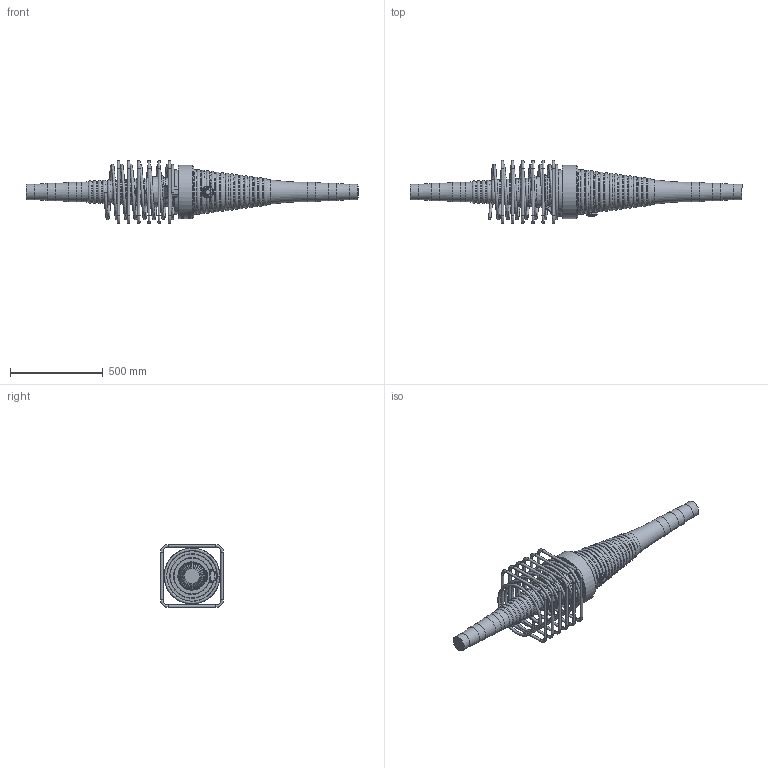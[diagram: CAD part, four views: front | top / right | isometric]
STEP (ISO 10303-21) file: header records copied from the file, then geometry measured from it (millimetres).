
FILE_DESCRIPTION(/* description */ (''),/* implementation_level */ '2;1');
FILE_NAME(/* name */ 'BBR VT CONA CMI BT 1306_Coupler K Assembly_CS-34,28.stp',/* time_stamp */ '2025-05-09T09:47:55+02:00',/* author */ ('tk'),/* organization */ (''),/* preprocessor_version */ 'ST-DEVELOPER v20',/* originating_system */ 'Autodesk Inventor 2024',/* authorisation */ '');
FILE_SCHEMA (('AUTOMOTIVE_DESIGN { 1 0 10303 214 3 1 1 }'));
Products named in the file (1): BBR VT CONA CMI BT 1306_Couler K Assembly_CS-34,28
Bounding box: 1790.13 x 340 x 340 mm (x, y, z)
Volume: 34588435.1 mm3; surface area: 1597587.3 mm2
Topology: 8 solids, 8 shells, 1009 faces, 2687 edges, 1743 vertices
Faces by surface type: bspline 447, plane 269, torus 132, cylinder 118, cone 33, sphere 10
Full cylindrical faces by diameter (mm): 14 x24, 34 x2, 57 x2, 84 x2, 94 x2, 104 x2, 192.529 x1, 197.205 x1, 273 x1, 286 x1, 290 x1
Entity records: 46950 total; most frequent: CARTESIAN_POINT 23788, ORIENTED_EDGE 5354, DIRECTION 3729, EDGE_CURVE 2677, VERTEX_POINT 1743, AXIS2_PLACEMENT_3D 1383, EDGE_LOOP 1082, FACE_OUTER_BOUND 1009
